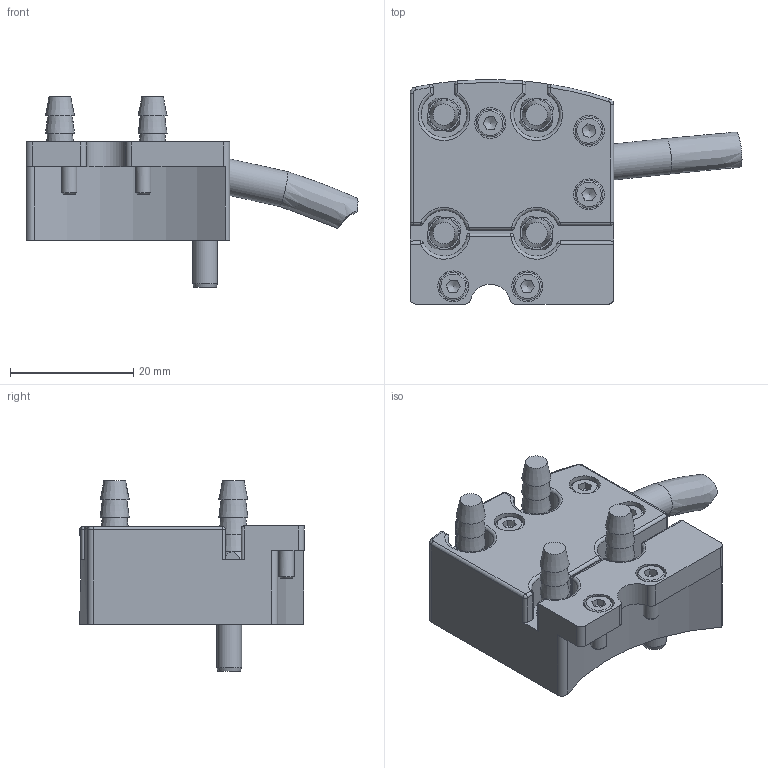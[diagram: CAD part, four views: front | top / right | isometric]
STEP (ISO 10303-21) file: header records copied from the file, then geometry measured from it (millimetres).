
FILE_DESCRIPTION(/* description */ (''),/* implementation_level */ '2;1');
FILE_NAME(/* name */ 'T:\CAD\Neuentwicklungen\MEK063-R\Vereinfachung\4 - 3-D-CAD\4 - 3D-CAD MEK063-O-4PR4-1FE12 Zsm.stp',/* time_stamp */ '2018-01-31T10:30:08+01:00',/* author */ ('vbednarz'),/* organization */ (''),/* preprocessor_version */ 'ST-DEVELOPER v16.13',/* originating_system */ 'Autodesk Inventor 2018',/* authorisation */ '');
FILE_SCHEMA (('AUTOMOTIVE_DESIGN { 1 0 10303 214 3 1 1 }'));
Length unit declared in the file: millimetre
Products named in the file (1): MEK063-O-4PR4-1FE12 Zsm_Shrinkwrap_1
Bounding box: 53.78 x 36.38 x 30.93 mm (x, y, z)
Volume: 16816.6 mm3; surface area: 6707.6 mm2
Topology: 1 solids, 1 shells, 235 faces, 518 edges, 319 vertices
Faces by surface type: plane 100, cylinder 60, cone 40, torus 16, sphere 14, bspline 5
Full cylindrical faces by diameter (mm): 2.5 x2, 2.7 x2, 4 x1, 4.5 x5, 5 x5, 5.8 x1
Entity records: 6528 total; most frequent: CARTESIAN_POINT 1331, DIRECTION 1071, ORIENTED_EDGE 922, EDGE_CURVE 461, AXIS2_PLACEMENT_3D 449, EDGE_LOOP 316, VERTEX_POINT 309, STYLED_ITEM 236
